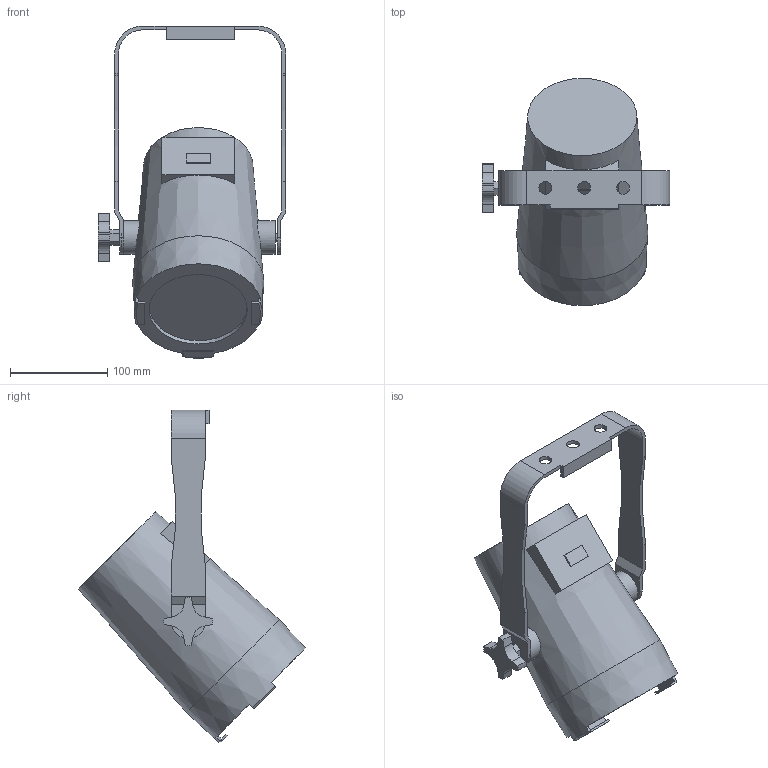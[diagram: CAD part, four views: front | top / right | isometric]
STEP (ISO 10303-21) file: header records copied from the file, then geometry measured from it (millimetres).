
FILE_DESCRIPTION(/* description */ (''),/* implementation_level */ '2;1');
FILE_NAME(/* name */ 'D:/dgooch/Documents/CADENG/PRO/COLORado M Solo/45/3D/COLORADO M SOLO_45.step',/* time_stamp */ '2019-09-11T11:30:04-04:00',/* author */ (''),/* organization */ (''),/* preprocessor_version */ 'ST-DEVELOPER v18',/* originating_system */ 'Autodesk Translation Framework v8.6.0.1094',/* authorisation */ '');
FILE_SCHEMA (('AUTOMOTIVE_DESIGN { 1 0 10303 214 3 1 1 }'));
Length unit declared in the file: millimetre
Products named in the file (3): COLORADO M SOLO; Bracket; Main
Assembly tree (2 placements, depth 2):
  COLORADO M SOLO
    Bracket
    Main
Bounding box: 192.87 x 233.64 x 341.46 mm (x, y, z)
Volume: 2702482.2 mm3; surface area: 175029.4 mm2
Topology: 2 solids, 2 shells, 112 faces, 311 edges, 210 vertices
Faces by surface type: plane 76, cylinder 31, cone 5
Full cylindrical faces by diameter (mm): 8 x2, 8.5 x1, 13 x3, 34.475 x2, 101 x1
Entity records: 3865 total; most frequent: CARTESIAN_POINT 814, DIRECTION 624, ORIENTED_EDGE 622, EDGE_CURVE 311, VERTEX_POINT 210, LINE 208, VECTOR 208, AXIS2_PLACEMENT_3D 208
